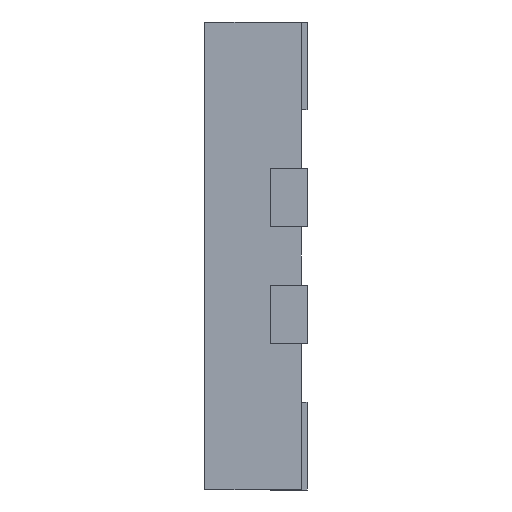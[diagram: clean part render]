
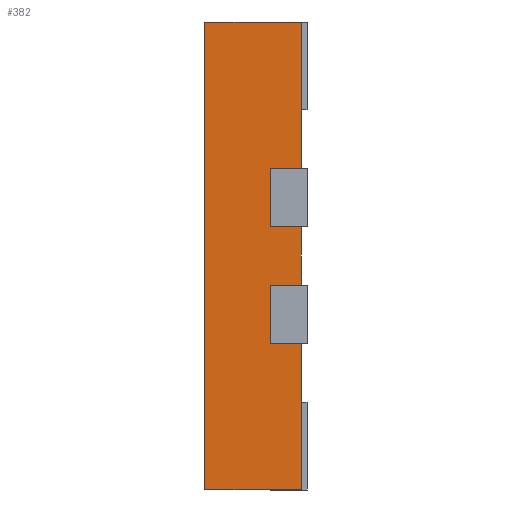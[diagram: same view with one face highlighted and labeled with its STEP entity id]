
A CAD part, left-side view. The second image highlights one B-rep face of the part: STEP entity #382.
In plain terms, the highlighted planar face has unit normal (-1, 0, 0).
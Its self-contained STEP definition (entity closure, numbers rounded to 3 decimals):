
#19 = EDGE_CURVE ( 'NONE', #473, #1595, #347, .T. ) ;
#84 = CARTESIAN_POINT ( 'NONE',  ( -0.8, 0.33, -0.3 ) ) ;
#140 = VECTOR ( 'NONE', #2305, 1000. ) ;
#213 = VECTOR ( 'NONE', #1124, 1000. ) ;
#259 = CARTESIAN_POINT ( 'NONE',  ( -0.8, 0.107, 0.1 ) ) ;
#324 = VERTEX_POINT ( 'NONE', #795 ) ;
#347 = LINE ( 'NONE', #84, #1020 ) ;
#382 = ADVANCED_FACE ( 'NONE', ( #784 ), #570, .F. ) ;
#406 = CARTESIAN_POINT ( 'NONE',  ( -0.8, 0.33, 0.8 ) ) ;
#455 = LINE ( 'NONE', #1320, #495 ) ;
#473 = VERTEX_POINT ( 'NONE', #2480 ) ;
#475 = DIRECTION ( 'NONE',  ( 0., 0., 1. ) ) ;
#495 = VECTOR ( 'NONE', #1735, 1000. ) ;
#513 = CARTESIAN_POINT ( 'NONE',  ( -0.8, 0., 0.8 ) ) ;
#570 = PLANE ( 'NONE',  #1901 ) ;
#607 = DIRECTION ( 'NONE',  ( 0., -1., 0. ) ) ;
#621 = EDGE_CURVE ( 'NONE', #1962, #2456, #1619, .T. ) ;
#624 = DIRECTION ( 'NONE',  ( 0., -1., 0. ) ) ;
#631 = VECTOR ( 'NONE', #1306, 1000. ) ;
#671 = EDGE_CURVE ( 'NONE', #822, #1888, #1409, .T. ) ;
#676 = LINE ( 'NONE', #1171, #1500 ) ;
#678 = CARTESIAN_POINT ( 'NONE',  ( -0.8, 0.33, 0.3 ) ) ;
#685 = CARTESIAN_POINT ( 'NONE',  ( -0.8, 0., -0.8 ) ) ;
#692 = ORIENTED_EDGE ( 'NONE', *, *, #866, .T. ) ;
#726 = EDGE_CURVE ( 'NONE', #2081, #755, #455, .T. ) ;
#755 = VERTEX_POINT ( 'NONE', #2379 ) ;
#784 = FACE_OUTER_BOUND ( 'NONE', #1097, .T. ) ;
#795 = CARTESIAN_POINT ( 'NONE',  ( -0.8, 0.33, -0.8 ) ) ;
#809 = CARTESIAN_POINT ( 'NONE',  ( -0.8, 0., 0.8 ) ) ;
#822 = VERTEX_POINT ( 'NONE', #1297 ) ;
#833 = ORIENTED_EDGE ( 'NONE', *, *, #621, .F. ) ;
#866 = EDGE_CURVE ( 'NONE', #1972, #2081, #1371, .T. ) ;
#876 = LINE ( 'NONE', #1743, #1903 ) ;
#891 = LINE ( 'NONE', #1099, #2270 ) ;
#926 = EDGE_CURVE ( 'NONE', #2695, #2456, #676, .T. ) ;
#949 = ORIENTED_EDGE ( 'NONE', *, *, #2543, .F. ) ;
#1020 = VECTOR ( 'NONE', #1822, 1000. ) ;
#1097 = EDGE_LOOP ( 'NONE', ( #2602, #1782, #833, #2293, #2092, #2644, #1439, #949, #2566, #2432, #692, #2112 ) ) ;
#1099 = CARTESIAN_POINT ( 'NONE',  ( -0.8, 0.107, 0.8 ) ) ;
#1124 = DIRECTION ( 'NONE',  ( 0., 1., 0. ) ) ;
#1171 = CARTESIAN_POINT ( 'NONE',  ( -0.8, 0., 0.8 ) ) ;
#1174 = VECTOR ( 'NONE', #607, 1000. ) ;
#1234 = DIRECTION ( 'NONE',  ( 0., 0., 1. ) ) ;
#1265 = VECTOR ( 'NONE', #1542, 1000. ) ;
#1267 = EDGE_CURVE ( 'NONE', #822, #1972, #2633, .T. ) ;
#1268 = CARTESIAN_POINT ( 'NONE',  ( -0.8, 0.33, 0.8 ) ) ;
#1274 = VECTOR ( 'NONE', #1234, 1000. ) ;
#1290 = DIRECTION ( 'NONE',  ( 0., 0., -1. ) ) ;
#1297 = CARTESIAN_POINT ( 'NONE',  ( -0.8, 0., -0.1 ) ) ;
#1306 = DIRECTION ( 'NONE',  ( 0., 0., 1. ) ) ;
#1320 = CARTESIAN_POINT ( 'NONE',  ( -0.8, 0.107, 0.8 ) ) ;
#1371 = LINE ( 'NONE', #2014, #213 ) ;
#1409 = LINE ( 'NONE', #1884, #140 ) ;
#1419 = CARTESIAN_POINT ( 'NONE',  ( -0.8, 0., 0.1 ) ) ;
#1422 = CARTESIAN_POINT ( 'NONE',  ( -0.8, 0.33, 0.8 ) ) ;
#1439 = ORIENTED_EDGE ( 'NONE', *, *, #19, .T. ) ;
#1448 = LINE ( 'NONE', #809, #1274 ) ;
#1495 = LINE ( 'NONE', #1268, #631 ) ;
#1500 = VECTOR ( 'NONE', #475, 1000. ) ;
#1505 = DIRECTION ( 'NONE',  ( 1., 0., 0. ) ) ;
#1542 = DIRECTION ( 'NONE',  ( 0., 1., 0. ) ) ;
#1563 = DIRECTION ( 'NONE',  ( 0., 0., 1. ) ) ;
#1595 = VERTEX_POINT ( 'NONE', #2693 ) ;
#1616 = CARTESIAN_POINT ( 'NONE',  ( -0.8, 0.107, -0.1 ) ) ;
#1619 = LINE ( 'NONE', #1422, #1174 ) ;
#1735 = DIRECTION ( 'NONE',  ( 0., 0., 1. ) ) ;
#1743 = CARTESIAN_POINT ( 'NONE',  ( -0.8, 0.33, -0.8 ) ) ;
#1759 = DIRECTION ( 'NONE',  ( 0., 0., -1. ) ) ;
#1774 = VERTEX_POINT ( 'NONE', #685 ) ;
#1782 = ORIENTED_EDGE ( 'NONE', *, *, #926, .T. ) ;
#1817 = CARTESIAN_POINT ( 'NONE',  ( -0.8, 0.33, 0.8 ) ) ;
#1822 = DIRECTION ( 'NONE',  ( 0., 1., 0. ) ) ;
#1884 = CARTESIAN_POINT ( 'NONE',  ( -0.8, 0.33, -0.1 ) ) ;
#1888 = VERTEX_POINT ( 'NONE', #1616 ) ;
#1901 = AXIS2_PLACEMENT_3D ( 'NONE', #406, #1505, #1290 ) ;
#1903 = VECTOR ( 'NONE', #624, 1000. ) ;
#1962 = VERTEX_POINT ( 'NONE', #1817 ) ;
#1972 = VERTEX_POINT ( 'NONE', #1419 ) ;
#2014 = CARTESIAN_POINT ( 'NONE',  ( -0.8, 0.33, 0.1 ) ) ;
#2081 = VERTEX_POINT ( 'NONE', #259 ) ;
#2092 = ORIENTED_EDGE ( 'NONE', *, *, #2463, .T. ) ;
#2100 = CARTESIAN_POINT ( 'NONE',  ( -0.8, 0., 0.3 ) ) ;
#2112 = ORIENTED_EDGE ( 'NONE', *, *, #726, .T. ) ;
#2260 = EDGE_CURVE ( 'NONE', #1774, #473, #1448, .T. ) ;
#2270 = VECTOR ( 'NONE', #1759, 1000. ) ;
#2293 = ORIENTED_EDGE ( 'NONE', *, *, #2750, .F. ) ;
#2305 = DIRECTION ( 'NONE',  ( 0., 1., 0. ) ) ;
#2379 = CARTESIAN_POINT ( 'NONE',  ( -0.8, 0.107, 0.3 ) ) ;
#2432 = ORIENTED_EDGE ( 'NONE', *, *, #1267, .T. ) ;
#2456 = VERTEX_POINT ( 'NONE', #2825 ) ;
#2463 = EDGE_CURVE ( 'NONE', #324, #1774, #876, .T. ) ;
#2480 = CARTESIAN_POINT ( 'NONE',  ( -0.8, 0., -0.3 ) ) ;
#2543 = EDGE_CURVE ( 'NONE', #1888, #1595, #891, .T. ) ;
#2555 = EDGE_CURVE ( 'NONE', #2695, #755, #2623, .T. ) ;
#2566 = ORIENTED_EDGE ( 'NONE', *, *, #671, .F. ) ;
#2602 = ORIENTED_EDGE ( 'NONE', *, *, #2555, .F. ) ;
#2623 = LINE ( 'NONE', #678, #1265 ) ;
#2632 = VECTOR ( 'NONE', #1563, 1000. ) ;
#2633 = LINE ( 'NONE', #513, #2632 ) ;
#2644 = ORIENTED_EDGE ( 'NONE', *, *, #2260, .T. ) ;
#2693 = CARTESIAN_POINT ( 'NONE',  ( -0.8, 0.107, -0.3 ) ) ;
#2695 = VERTEX_POINT ( 'NONE', #2100 ) ;
#2750 = EDGE_CURVE ( 'NONE', #324, #1962, #1495, .T. ) ;
#2825 = CARTESIAN_POINT ( 'NONE',  ( -0.8, 0., 0.8 ) ) ;
